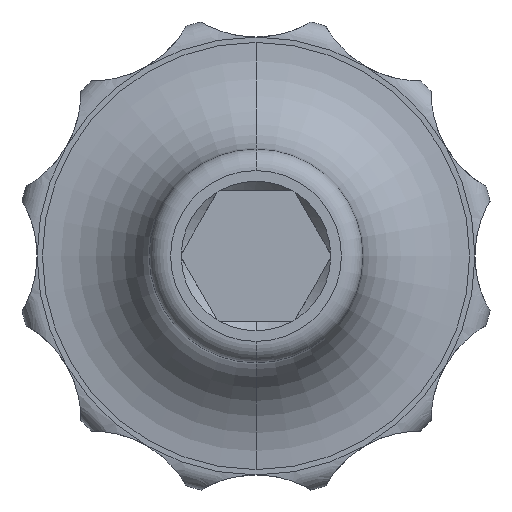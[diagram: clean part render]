
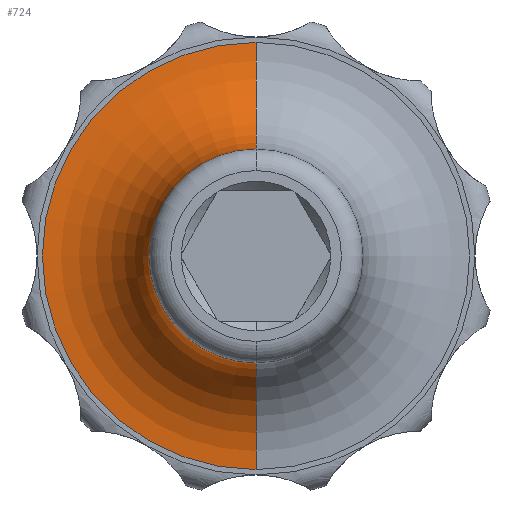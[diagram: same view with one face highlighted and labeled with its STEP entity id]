
A CAD part, front view. The second image highlights one B-rep face of the part: STEP entity #724.
In plain terms, the highlighted toroidal (fillet/blend) face has major radius 20 mm and minor radius 10 mm.
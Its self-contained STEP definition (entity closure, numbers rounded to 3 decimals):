
#3 = DIRECTION ( 'NONE',  ( 0., 1., 0. ) ) ;
#203 = EDGE_CURVE ( 'NONE', #1920, #1438, #1097, .T. ) ;
#252 = CIRCLE ( 'NONE', #2030, 20. ) ;
#358 = AXIS2_PLACEMENT_3D ( 'NONE', #1922, #3, #485 ) ;
#485 = DIRECTION ( 'NONE',  ( 0., 0., 1. ) ) ;
#564 = DIRECTION ( 'NONE',  ( 1., 0., 0. ) ) ;
#724 = ADVANCED_FACE ( 'NONE', ( #1238 ), #1018, .F. ) ;
#893 = CARTESIAN_POINT ( 'NONE',  ( 0., 15., 0. ) ) ;
#996 = AXIS2_PLACEMENT_3D ( 'NONE', #1128, #1208, #1469 ) ;
#1018 = TOROIDAL_SURFACE ( 'NONE', #358, 20., 10. ) ;
#1036 = ORIENTED_EDGE ( 'NONE', *, *, #2319, .T. ) ;
#1097 = CIRCLE ( 'NONE', #2870, 10. ) ;
#1099 = DIRECTION ( 'NONE',  ( 0., 0., 1. ) ) ;
#1128 = CARTESIAN_POINT ( 'NONE',  ( 0., 15., 20. ) ) ;
#1149 = CARTESIAN_POINT ( 'NONE',  ( 0., 25., 20. ) ) ;
#1208 = DIRECTION ( 'NONE',  ( -1., 0., 0. ) ) ;
#1238 = FACE_OUTER_BOUND ( 'NONE', #3138, .T. ) ;
#1434 = VERTEX_POINT ( 'NONE', #2552 ) ;
#1438 = VERTEX_POINT ( 'NONE', #2270 ) ;
#1469 = DIRECTION ( 'NONE',  ( 0., 0., 1. ) ) ;
#1510 = CIRCLE ( 'NONE', #3130, 10. ) ;
#1516 = DIRECTION ( 'NONE',  ( 0., 0., -1. ) ) ;
#1536 = CARTESIAN_POINT ( 'NONE',  ( 0., 25., -20. ) ) ;
#1573 = DIRECTION ( 'NONE',  ( 0., 1., 0. ) ) ;
#1612 = ORIENTED_EDGE ( 'NONE', *, *, #2437, .F. ) ;
#1779 = EDGE_CURVE ( 'NONE', #1920, #2145, #252, .T. ) ;
#1920 = VERTEX_POINT ( 'NONE', #1536 ) ;
#1922 = CARTESIAN_POINT ( 'NONE',  ( 0., 15., 0. ) ) ;
#1947 = DIRECTION ( 'NONE',  ( 0., 0., 1. ) ) ;
#2003 = CARTESIAN_POINT ( 'NONE',  ( 0., 25., 0. ) ) ;
#2030 = AXIS2_PLACEMENT_3D ( 'NONE', #2003, #2435, #1947 ) ;
#2145 = VERTEX_POINT ( 'NONE', #1149 ) ;
#2270 = CARTESIAN_POINT ( 'NONE',  ( 0., 15., -10. ) ) ;
#2319 = EDGE_CURVE ( 'NONE', #1438, #1434, #1510, .T. ) ;
#2363 = CIRCLE ( 'NONE', #996, 10. ) ;
#2435 = DIRECTION ( 'NONE',  ( 0., 1., 0. ) ) ;
#2437 = EDGE_CURVE ( 'NONE', #2145, #1434, #2363, .T. ) ;
#2552 = CARTESIAN_POINT ( 'NONE',  ( 0., 15., 10. ) ) ;
#2617 = ORIENTED_EDGE ( 'NONE', *, *, #1779, .F. ) ;
#2692 = CARTESIAN_POINT ( 'NONE',  ( 0., 15., -20. ) ) ;
#2767 = ORIENTED_EDGE ( 'NONE', *, *, #203, .T. ) ;
#2870 = AXIS2_PLACEMENT_3D ( 'NONE', #2692, #564, #1516 ) ;
#3130 = AXIS2_PLACEMENT_3D ( 'NONE', #893, #1573, #1099 ) ;
#3138 = EDGE_LOOP ( 'NONE', ( #2617, #2767, #1036, #1612 ) ) ;
